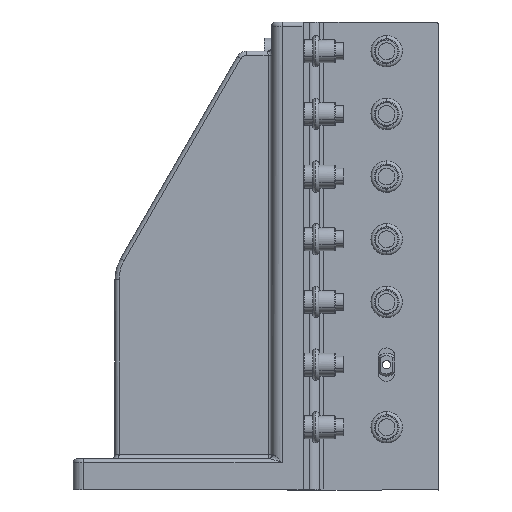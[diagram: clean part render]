
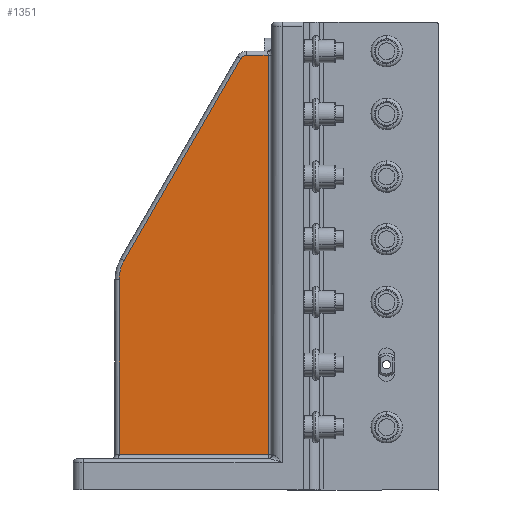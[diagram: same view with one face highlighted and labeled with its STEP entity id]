
A CAD part, front view. The second image highlights one B-rep face of the part: STEP entity #1351.
In plain terms, the highlighted planar face has unit normal (-0.035, -0.999, 0).
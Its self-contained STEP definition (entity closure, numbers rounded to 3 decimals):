
#1351=ADVANCED_FACE('5251925.1_Winkel f. Senkr. Anbind. 8kt.-Rohr SW80',(#3238),#3239,.T.);
#3238=FACE_OUTER_BOUND('',#7077,.T.);
#3239=PLANE('',#7078);
#7077=EDGE_LOOP('',(#11321,#11322,#11323,#11324,#11325,#11326,#11327));
#7078=AXIS2_PLACEMENT_3D('',#11328,#11329,#11330);
#11321=ORIENTED_EDGE('',*,*,#16853,.T.);
#11322=ORIENTED_EDGE('',*,*,#16854,.T.);
#11323=ORIENTED_EDGE('',*,*,#16855,.T.);
#11324=ORIENTED_EDGE('',*,*,#16856,.T.);
#11325=ORIENTED_EDGE('',*,*,#16857,.T.);
#11326=ORIENTED_EDGE('',*,*,#16643,.F.);
#11327=ORIENTED_EDGE('',*,*,#16858,.F.);
#11328=CARTESIAN_POINT('',(-55.0,-20.0,112.0));
#11329=DIRECTION('',(-0.035,-0.999,-0.0));
#11330=DIRECTION('',(0.0,0.0,-1.0));
#16643=EDGE_CURVE('',#19530,#19532,#19533,.T.);
#16853=EDGE_CURVE('',#19779,#19780,#19781,.T.);
#16854=EDGE_CURVE('',#19780,#19782,#19783,.T.);
#16855=EDGE_CURVE('',#19782,#19784,#19785,.T.);
#16856=EDGE_CURVE('',#19784,#19786,#19787,.T.);
#16857=EDGE_CURVE('',#19786,#19532,#19788,.T.);
#16858=EDGE_CURVE('',#19779,#19530,#19789,.T.);
#19530=VERTEX_POINT('',#25975);
#19532=VERTEX_POINT('',#25986);
#19533=B_SPLINE_CURVE_WITH_KNOTS('',1,(#25987,#25988),.UNSPECIFIED.,.F.,.F.,(2,2),(0.,1.0),.UNSPECIFIED.);
#19779=VERTEX_POINT('',#27160);
#19780=VERTEX_POINT('',#27161);
#19781=B_SPLINE_CURVE_WITH_KNOTS('',1,(#27162,#27163),.UNSPECIFIED.,.F.,.F.,(2,2),(0.,1.),.UNSPECIFIED.);
#19782=VERTEX_POINT('',#27164);
#19783=(B_SPLINE_CURVE(2,(#27166,#27167,#27168),.UNSPECIFIED.,.F.,.F.)B_SPLINE_CURVE_WITH_KNOTS((3,3),(1.776,2.823),.UNSPECIFIED.)RATIONAL_B_SPLINE_CURVE((1.0,0.866,1.0))BOUNDED_CURVE()REPRESENTATION_ITEM('')GEOMETRIC_REPRESENTATION_ITEM()CURVE());
#19784=VERTEX_POINT('',#27175);
#19785=B_SPLINE_CURVE_WITH_KNOTS('',1,(#27176,#27177),.UNSPECIFIED.,.F.,.F.,(2,2),(0.,1.),.UNSPECIFIED.);
#19786=VERTEX_POINT('',#27178);
#19787=(B_SPLINE_CURVE(2,(#27180,#27181,#27182),.UNSPECIFIED.,.F.,.F.)B_SPLINE_CURVE_WITH_KNOTS((3,3),(-1.605,-1.081),.UNSPECIFIED.)RATIONAL_B_SPLINE_CURVE((1.0,0.966,1.0))BOUNDED_CURVE()REPRESENTATION_ITEM('')GEOMETRIC_REPRESENTATION_ITEM()CURVE());
#19788=B_SPLINE_CURVE_WITH_KNOTS('',1,(#27189,#27190),.UNSPECIFIED.,.F.,.F.,(2,2),(0.,1.0),.UNSPECIFIED.);
#19789=B_SPLINE_CURVE_WITH_KNOTS('',1,(#27191,#27192),.UNSPECIFIED.,.F.,.F.,(2,2),(0.,1.0),.UNSPECIFIED.);
#25975=CARTESIAN_POINT('',(-56.656,-19.942,17.0));
#25986=CARTESIAN_POINT('',(-128.07,-17.448,17.0));
#25987=CARTESIAN_POINT('',(-56.656,-19.942,17.0));
#25988=CARTESIAN_POINT('',(-128.07,-17.448,17.0));
#27160=CARTESIAN_POINT('',(-56.656,-19.942,208.));
#27161=CARTESIAN_POINT('',(-67.183,-19.575,208.0));
#27162=CARTESIAN_POINT('',(-56.656,-19.942,208.0));
#27163=CARTESIAN_POINT('',(-67.183,-19.575,208.0));
#27164=CARTESIAN_POINT('',(-69.781,-19.484,206.5));
#27166=CARTESIAN_POINT('',(-67.183,-19.575,208.));
#27167=CARTESIAN_POINT('',(-68.915,-19.514,208.));
#27168=CARTESIAN_POINT('',(-69.781,-19.484,206.5));
#27175=CARTESIAN_POINT('',(-125.658,-17.533,109.718));
#27176=CARTESIAN_POINT('',(-69.781,-19.484,206.5));
#27177=CARTESIAN_POINT('',(-125.658,-17.533,109.718));
#27178=CARTESIAN_POINT('',(-128.07,-17.448,100.718));
#27180=CARTESIAN_POINT('',(-125.658,-17.533,109.718));
#27181=CARTESIAN_POINT('',(-128.07,-17.448,105.541));
#27182=CARTESIAN_POINT('',(-128.07,-17.448,100.718));
#27189=CARTESIAN_POINT('',(-128.07,-17.448,100.718));
#27190=CARTESIAN_POINT('',(-128.07,-17.448,17.0));
#27191=CARTESIAN_POINT('',(-56.656,-19.942,208.));
#27192=CARTESIAN_POINT('',(-56.656,-19.942,17.0));
